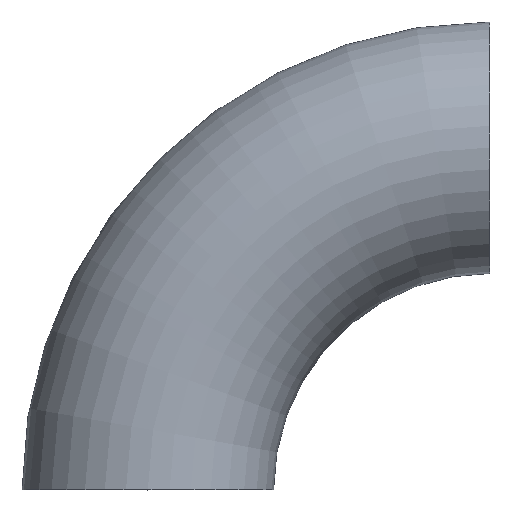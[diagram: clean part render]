
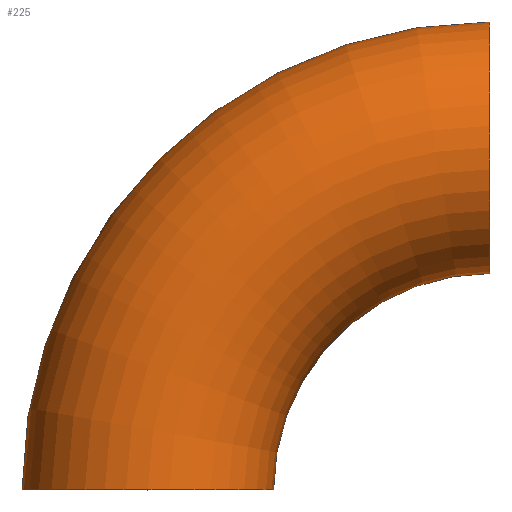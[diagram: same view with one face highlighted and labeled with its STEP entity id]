
A CAD part, top view. The second image highlights one B-rep face of the part: STEP entity #225.
In plain terms, the highlighted toroidal (fillet/blend) face has major radius 190 mm and minor radius 69.85 mm.
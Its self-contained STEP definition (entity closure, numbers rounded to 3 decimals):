
#5 = DIRECTION ( 'NONE',  ( 0., 0., 1. ) ) ;
#16 = AXIS2_PLACEMENT_3D ( 'NONE', #207, #5, #136 ) ;
#34 = AXIS2_PLACEMENT_3D ( 'NONE', #115, #154, #234 ) ;
#50 = VERTEX_POINT ( 'NONE', #131 ) ;
#63 = CARTESIAN_POINT ( 'NONE',  ( 190., 259.85, 0. ) ) ;
#67 = CARTESIAN_POINT ( 'NONE',  ( 190., 0., 0. ) ) ;
#74 = ORIENTED_EDGE ( 'NONE', *, *, #204, .T. ) ;
#83 = CARTESIAN_POINT ( 'NONE',  ( 190., 190., 0. ) ) ;
#87 = AXIS2_PLACEMENT_3D ( 'NONE', #235, #175, #151 ) ;
#89 = VERTEX_POINT ( 'NONE', #63 ) ;
#90 = AXIS2_PLACEMENT_3D ( 'NONE', #83, #214, #97 ) ;
#92 = EDGE_CURVE ( 'NONE', #226, #122, #184, .T. ) ;
#97 = DIRECTION ( 'NONE',  ( 0., 0., 1. ) ) ;
#106 = ORIENTED_EDGE ( 'NONE', *, *, #92, .T. ) ;
#113 = CARTESIAN_POINT ( 'NONE',  ( -69.85, 0., 0. ) ) ;
#115 = CARTESIAN_POINT ( 'NONE',  ( 190., 0., 0. ) ) ;
#119 = DIRECTION ( 'NONE',  ( 0., 0., 1. ) ) ;
#122 = VERTEX_POINT ( 'NONE', #238 ) ;
#123 = ORIENTED_EDGE ( 'NONE', *, *, #253, .F. ) ;
#130 = TOROIDAL_SURFACE ( 'NONE', #34, 190., 69.85 ) ;
#131 = CARTESIAN_POINT ( 'NONE',  ( 190., 120.15, 0. ) ) ;
#136 = DIRECTION ( 'NONE',  ( 1., 0., 0. ) ) ;
#149 = EDGE_CURVE ( 'NONE', #89, #50, #174, .T. ) ;
#151 = DIRECTION ( 'NONE',  ( 0., 0., 1. ) ) ;
#153 = ORIENTED_EDGE ( 'NONE', *, *, #149, .F. ) ;
#154 = DIRECTION ( 'NONE',  ( 0., 0., 1. ) ) ;
#174 = CIRCLE ( 'NONE', #90, 69.85 ) ;
#175 = DIRECTION ( 'NONE',  ( 0., 1., 0. ) ) ;
#184 = CIRCLE ( 'NONE', #87, 69.85 ) ;
#195 = AXIS2_PLACEMENT_3D ( 'NONE', #67, #119, #217 ) ;
#203 = CIRCLE ( 'NONE', #16, 259.85 ) ;
#204 = EDGE_CURVE ( 'NONE', #89, #226, #203, .T. ) ;
#207 = CARTESIAN_POINT ( 'NONE',  ( 190., 0., 0. ) ) ;
#214 = DIRECTION ( 'NONE',  ( 1., 0., 0. ) ) ;
#217 = DIRECTION ( 'NONE',  ( 1., 0., 0. ) ) ;
#225 = ADVANCED_FACE ( 'NONE', ( #228 ), #130, .T. ) ;
#226 = VERTEX_POINT ( 'NONE', #113 ) ;
#228 = FACE_OUTER_BOUND ( 'NONE', #229, .T. ) ;
#229 = EDGE_LOOP ( 'NONE', ( #153, #74, #106, #123 ) ) ;
#234 = DIRECTION ( 'NONE',  ( 1., 0., 0. ) ) ;
#235 = CARTESIAN_POINT ( 'NONE',  ( 0., 0., 0. ) ) ;
#238 = CARTESIAN_POINT ( 'NONE',  ( 69.85, 0., 0. ) ) ;
#252 = CIRCLE ( 'NONE', #195, 120.15 ) ;
#253 = EDGE_CURVE ( 'NONE', #50, #122, #252, .T. ) ;
